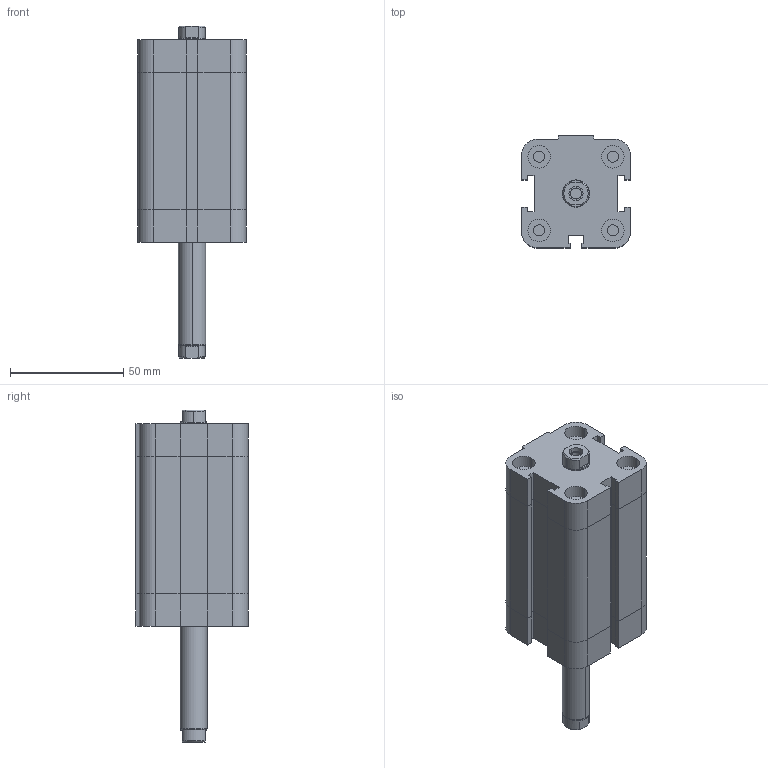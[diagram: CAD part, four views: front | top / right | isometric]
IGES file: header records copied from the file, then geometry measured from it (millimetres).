
Global section: file name: No Iges File Name specified; native system: Autodesk Inventor 2009; preprocessor: AutoDesk Inventor Iges Exporter R2009; author: maffial1; date: 20090420.200340; units: millimetre
Bounding box: 48 x 49.5 x 146.5 mm (x, y, z)
Volume: 187029.3 mm3; surface area: 37784.1 mm2
Topology: 2 solids, 2 shells, 202 faces, 450 edges, 274 vertices
Faces by surface type: plane 114, bspline 42, revolution 20, cylinder 18, cone 8
